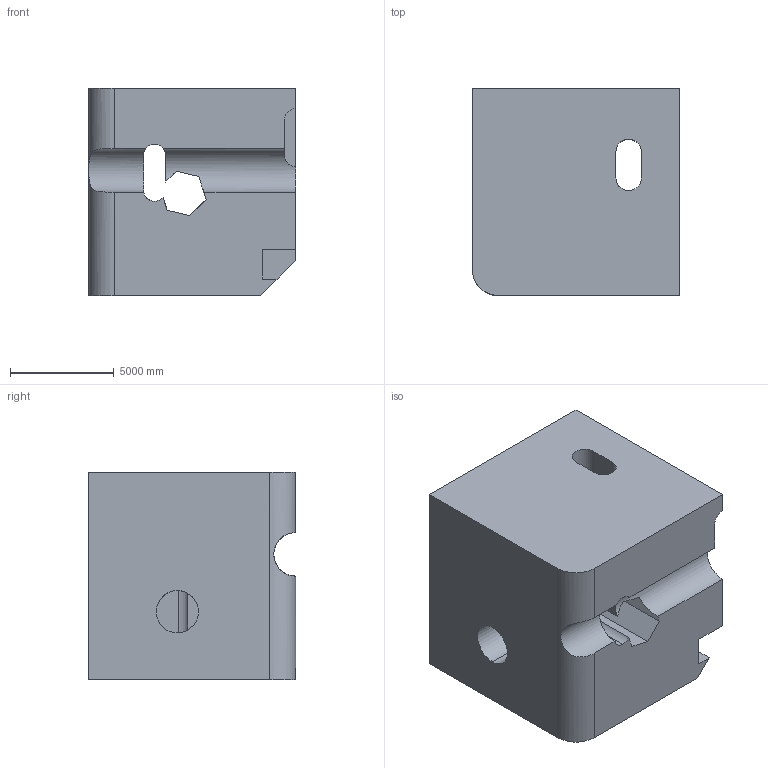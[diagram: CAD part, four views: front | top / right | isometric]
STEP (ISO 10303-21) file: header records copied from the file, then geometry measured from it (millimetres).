
FILE_DESCRIPTION (( 'STEP AP203' ), '1' );
FILE_NAME ('820.STEP', '2022-08-05T15:22:27', ( 'user' ), ( '' ), 'SwSTEP 2.0', 'SolidWorks 2021', '' );
FILE_SCHEMA (( 'CONFIG_CONTROL_DESIGN' ));
Length unit declared in the file: centimetre
Products named in the file (1): 820
Bounding box: 10000 x 10000 x 10000 mm (x, y, z)
Volume: 856597811464.3 mm3; surface area: 784582516.4 mm2
Topology: 1 solids, 1 shells, 38 faces, 120 edges, 80 vertices
Faces by surface type: plane 26, cylinder 12
Entity records: 1818 total; most frequent: CARTESIAN_POINT 676, ORIENTED_EDGE 240, DIRECTION 207, EDGE_CURVE 120, VERTEX_POINT 80, VECTOR 79, LINE 79, AXIS2_PLACEMENT_3D 64
